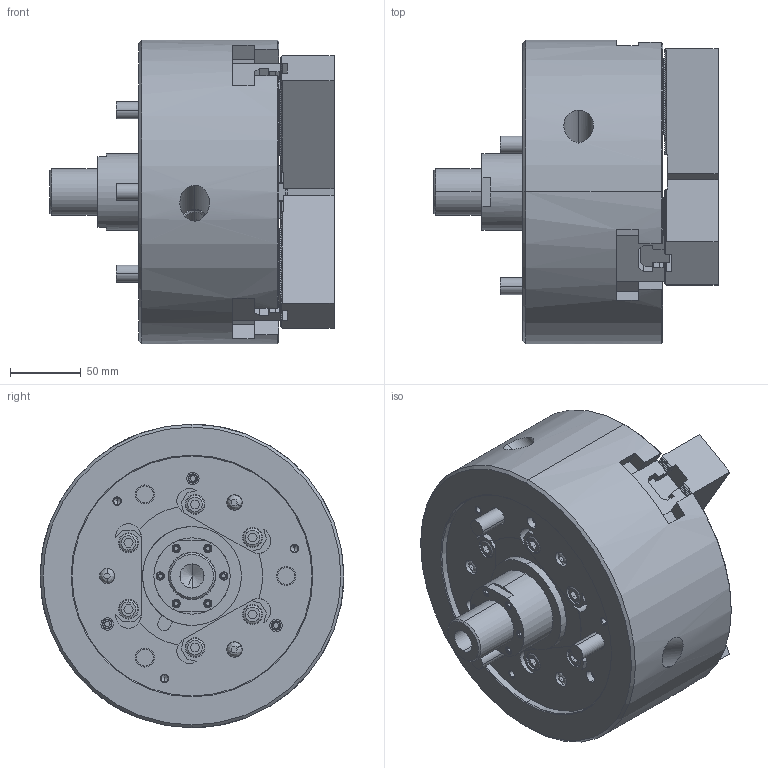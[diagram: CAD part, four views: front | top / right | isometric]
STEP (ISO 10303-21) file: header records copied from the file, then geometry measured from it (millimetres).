
FILE_DESCRIPTION (( 'STEP AP214' ), '1' );
FILE_NAME ('ML08_61P245452-6_OC.STEP', '2020-04-01T05:55:24', ( '' ), ( '' ), 'SwSTEP 2.0', 'SolidWorks 2017', '' );
FILE_SCHEMA (( 'AUTOMOTIVE_DESIGN' ));
Length unit declared in the file: millimetre
Products named in the file (5): B傾僫僣僉 M12亊30_1; 61P304291-3_ソフトジョー; 61P417260_T NUT; ML08_BASE^61P245452-6_ML08_ASSY; ML08_61P245452-6_OC
Assembly tree (13 placements, depth 2):
  ML08_61P245452-6_OC
    ML08_BASE^61P245452-6_ML08_ASSY
    61P417260_T NUT  x3
    61P304291-3_ソフトジョー  x3
    B傾僫僣僉 M12亊30_1  x6
Bounding box: 201.2 x 215 x 215 mm (x, y, z)
Volume: 3747488.6 mm3; surface area: 337572.9 mm2
Topology: 21 solids, 21 shells, 3614 faces, 10103 edges, 6652 vertices
Faces by surface type: plane 2440, cylinder 889, bspline 146, cone 139
Entity records: 88063 total; most frequent: CARTESIAN_POINT 20975, ORIENTED_EDGE 13346, DIRECTION 11221, EDGE_CURVE 6673, VECTOR 5157, LINE 5157, VERTEX_POINT 4382, AXIS2_PLACEMENT_3D 3032
